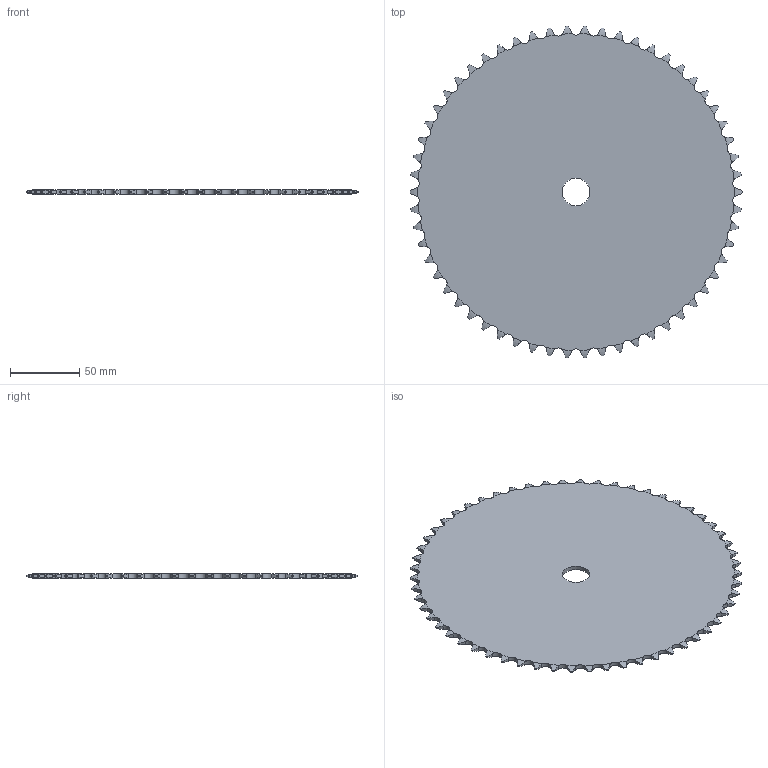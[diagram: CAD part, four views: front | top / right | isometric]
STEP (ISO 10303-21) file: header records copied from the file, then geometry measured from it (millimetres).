
FILE_DESCRIPTION((''),'2;1');
FILE_NAME('500-231-0058_PRT','2021-02-12T',('Brieden'),('Brieden'),'PRO/ENGINEER BY PARAMETRIC TECHNOLOGY CORPORATION, 2010160','PRO/ENGINEER BY PARAMETRIC TECHNOLOGY CORPORATION, 2010160','');
FILE_SCHEMA(('AUTOMOTIVE_DESIGN { 1 0 10303 214 1 1 1 1 }'));
Length unit declared in the file: millimetre
Products named in the file (1): 500-231-0058_PRT
Bounding box: 239.88 x 239.61 x 3 mm (x, y, z)
Volume: 125031.4 mm3; surface area: 86747.7 mm2
Topology: 1 solids, 1 shells, 352 faces, 1050 edges, 700 vertices
Faces by surface type: cylinder 234, torus 116, plane 2
Entity records: 17236 total; most frequent: CARTESIAN_POINT 5119, ORIENTED_EDGE 2100, DIRECTION 1642, PRESENTATION_STYLE_ASSIGNMENT 1051, STYLED_ITEM 1051, CURVE_STYLE 1050, EDGE_CURVE 1050, AXIS2_PLACEMENT_3D 704
